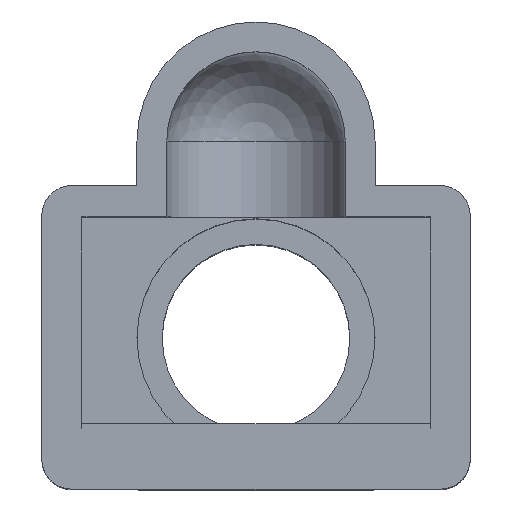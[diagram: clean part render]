
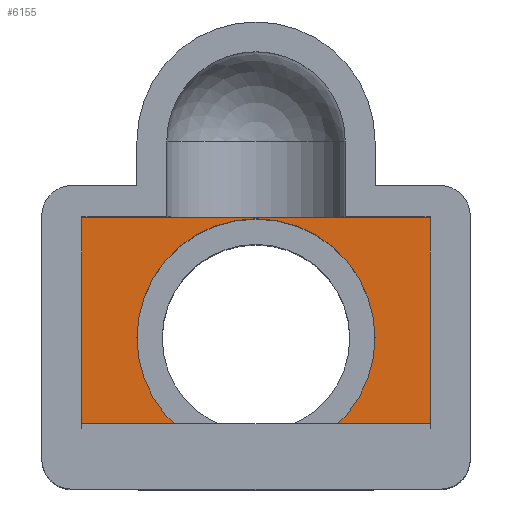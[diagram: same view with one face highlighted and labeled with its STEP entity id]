
A CAD part, top view. The second image highlights one B-rep face of the part: STEP entity #6155.
In plain terms, the highlighted planar face has unit normal (0, 0, 1).
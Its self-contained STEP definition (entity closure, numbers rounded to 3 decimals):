
#141 = VERTEX_POINT('',#142);
#142 = CARTESIAN_POINT('',(4.,0.,-8.5));
#149 = CYLINDRICAL_SURFACE('',#150,4.);
#150 = AXIS2_PLACEMENT_3D('',#151,#152,#153);
#151 = CARTESIAN_POINT('',(0.,0.,-14.5));
#152 = DIRECTION('',(-0.,-0.,1.));
#153 = DIRECTION('',(1.,0.,0.));
#161 = CYLINDRICAL_SURFACE('',#162,4.);
#162 = AXIS2_PLACEMENT_3D('',#163,#164,#165);
#163 = CARTESIAN_POINT('',(0.,0.,-14.5));
#164 = DIRECTION('',(-0.,-0.,1.));
#165 = DIRECTION('',(1.,0.,0.));
#173 = EDGE_CURVE('',#174,#141,#176,.T.);
#174 = VERTEX_POINT('',#175);
#175 = CARTESIAN_POINT('',(-4.,0.,-8.5));
#176 = SURFACE_CURVE('',#177,(#182,#189),.PCURVE_S1.);
#177 = CIRCLE('',#178,4.);
#178 = AXIS2_PLACEMENT_3D('',#179,#180,#181);
#179 = CARTESIAN_POINT('',(0.,0.,-8.5));
#180 = DIRECTION('',(0.,0.,1.));
#181 = DIRECTION('',(1.,0.,-0.));
#182 = PCURVE('',#149,#183);
#183 = DEFINITIONAL_REPRESENTATION('',(#184),#188);
#184 = LINE('',#185,#186);
#185 = CARTESIAN_POINT('',(0.,6.));
#186 = VECTOR('',#187,1.);
#187 = DIRECTION('',(1.,0.));
#188 = ( GEOMETRIC_REPRESENTATION_CONTEXT(2) 
PARAMETRIC_REPRESENTATION_CONTEXT() REPRESENTATION_CONTEXT('2D SPACE',''
  ) );
#189 = PCURVE('',#190,#195);
#190 = PLANE('',#191);
#191 = AXIS2_PLACEMENT_3D('',#192,#193,#194);
#192 = CARTESIAN_POINT('',(0.,0.,-8.5));
#193 = DIRECTION('',(-0.,0.,1.));
#194 = DIRECTION('',(1.,0.,0.));
#195 = DEFINITIONAL_REPRESENTATION('',(#196),#200);
#196 = CIRCLE('',#197,4.);
#197 = AXIS2_PLACEMENT_2D('',#198,#199);
#198 = CARTESIAN_POINT('',(0.,0.));
#199 = DIRECTION('',(1.,0.));
#200 = ( GEOMETRIC_REPRESENTATION_CONTEXT(2) 
PARAMETRIC_REPRESENTATION_CONTEXT() REPRESENTATION_CONTEXT('2D SPACE',''
  ) );
#4884 = PLANE('',#4885);
#4885 = AXIS2_PLACEMENT_3D('',#4886,#4887,#4888);
#4886 = CARTESIAN_POINT('',(5.85,4.05,-8.5));
#4887 = DIRECTION('',(1.,0.,0.));
#4888 = DIRECTION('',(0.,0.,-1.));
#4932 = VERTEX_POINT('',#4933);
#4933 = CARTESIAN_POINT('',(5.85,4.05,-8.5));
#4947 = PLANE('',#4948);
#4948 = AXIS2_PLACEMENT_3D('',#4949,#4950,#4951);
#4949 = CARTESIAN_POINT('',(-5.85,4.05,-8.5));
#4950 = DIRECTION('',(-0.,1.,0.));
#4951 = DIRECTION('',(0.,0.,1.));
#4959 = EDGE_CURVE('',#4960,#4932,#4962,.T.);
#4960 = VERTEX_POINT('',#4961);
#4961 = CARTESIAN_POINT('',(5.85,-4.05,-8.5));
#4962 = SURFACE_CURVE('',#4963,(#4967,#4974),.PCURVE_S1.);
#4963 = LINE('',#4964,#4965);
#4964 = CARTESIAN_POINT('',(5.85,4.05,-8.5));
#4965 = VECTOR('',#4966,1.);
#4966 = DIRECTION('',(-0.,1.,-0.));
#4967 = PCURVE('',#4884,#4968);
#4968 = DEFINITIONAL_REPRESENTATION('',(#4969),#4973);
#4969 = LINE('',#4970,#4971);
#4970 = CARTESIAN_POINT('',(0.,0.));
#4971 = VECTOR('',#4972,1.);
#4972 = DIRECTION('',(0.,1.));
#4973 = ( GEOMETRIC_REPRESENTATION_CONTEXT(2) 
PARAMETRIC_REPRESENTATION_CONTEXT() REPRESENTATION_CONTEXT('2D SPACE',''
  ) );
#4974 = PCURVE('',#190,#4975);
#4975 = DEFINITIONAL_REPRESENTATION('',(#4976),#4980);
#4976 = LINE('',#4977,#4978);
#4977 = CARTESIAN_POINT('',(5.85,4.05));
#4978 = VECTOR('',#4979,1.);
#4979 = DIRECTION('',(0.,1.));
#4980 = ( GEOMETRIC_REPRESENTATION_CONTEXT(2) 
PARAMETRIC_REPRESENTATION_CONTEXT() REPRESENTATION_CONTEXT('2D SPACE',''
  ) );
#4996 = PLANE('',#4997);
#4997 = AXIS2_PLACEMENT_3D('',#4998,#4999,#5000);
#4998 = CARTESIAN_POINT('',(-5.85,-4.05,-8.5));
#4999 = DIRECTION('',(0.,-1.,0.));
#5000 = DIRECTION('',(0.,-0.,-1.));
#5035 = EDGE_CURVE('',#5036,#4960,#5038,.T.);
#5036 = VERTEX_POINT('',#5037);
#5037 = CARTESIAN_POINT('',(-5.85,-4.05,-8.5));
#5038 = SURFACE_CURVE('',#5039,(#5043,#5050),.PCURVE_S1.);
#5039 = LINE('',#5040,#5041);
#5040 = CARTESIAN_POINT('',(-5.85,-4.05,-8.5));
#5041 = VECTOR('',#5042,1.);
#5042 = DIRECTION('',(1.,0.,0.));
#5043 = PCURVE('',#4996,#5044);
#5044 = DEFINITIONAL_REPRESENTATION('',(#5045),#5049);
#5045 = LINE('',#5046,#5047);
#5046 = CARTESIAN_POINT('',(0.,0.));
#5047 = VECTOR('',#5048,1.);
#5048 = DIRECTION('',(0.,1.));
#5049 = ( GEOMETRIC_REPRESENTATION_CONTEXT(2) 
PARAMETRIC_REPRESENTATION_CONTEXT() REPRESENTATION_CONTEXT('2D SPACE',''
  ) );
#5050 = PCURVE('',#190,#5051);
#5051 = DEFINITIONAL_REPRESENTATION('',(#5052),#5056);
#5052 = LINE('',#5053,#5054);
#5053 = CARTESIAN_POINT('',(-5.85,-4.05));
#5054 = VECTOR('',#5055,1.);
#5055 = DIRECTION('',(1.,0.));
#5056 = ( GEOMETRIC_REPRESENTATION_CONTEXT(2) 
PARAMETRIC_REPRESENTATION_CONTEXT() REPRESENTATION_CONTEXT('2D SPACE',''
  ) );
#5072 = PLANE('',#5073);
#5073 = AXIS2_PLACEMENT_3D('',#5074,#5075,#5076);
#5074 = CARTESIAN_POINT('',(-5.85,4.05,-8.5));
#5075 = DIRECTION('',(-1.,0.,-0.));
#5076 = DIRECTION('',(0.,0.,1.));
#5111 = EDGE_CURVE('',#5112,#5036,#5114,.T.);
#5112 = VERTEX_POINT('',#5113);
#5113 = CARTESIAN_POINT('',(-5.85,4.05,-8.5));
#5114 = SURFACE_CURVE('',#5115,(#5119,#5126),.PCURVE_S1.);
#5115 = LINE('',#5116,#5117);
#5116 = CARTESIAN_POINT('',(-5.85,4.05,-8.5));
#5117 = VECTOR('',#5118,1.);
#5118 = DIRECTION('',(0.,-1.,0.));
#5119 = PCURVE('',#5072,#5120);
#5120 = DEFINITIONAL_REPRESENTATION('',(#5121),#5125);
#5121 = LINE('',#5122,#5123);
#5122 = CARTESIAN_POINT('',(0.,0.));
#5123 = VECTOR('',#5124,1.);
#5124 = DIRECTION('',(0.,-1.));
#5125 = ( GEOMETRIC_REPRESENTATION_CONTEXT(2) 
PARAMETRIC_REPRESENTATION_CONTEXT() REPRESENTATION_CONTEXT('2D SPACE',''
  ) );
#5126 = PCURVE('',#190,#5127);
#5127 = DEFINITIONAL_REPRESENTATION('',(#5128),#5132);
#5128 = LINE('',#5129,#5130);
#5129 = CARTESIAN_POINT('',(-5.85,4.05));
#5130 = VECTOR('',#5131,1.);
#5131 = DIRECTION('',(0.,-1.));
#5132 = ( GEOMETRIC_REPRESENTATION_CONTEXT(2) 
PARAMETRIC_REPRESENTATION_CONTEXT() REPRESENTATION_CONTEXT('2D SPACE',''
  ) );
#6134 = EDGE_CURVE('',#4932,#5112,#6135,.T.);
#6135 = SURFACE_CURVE('',#6136,(#6140,#6147),.PCURVE_S1.);
#6136 = LINE('',#6137,#6138);
#6137 = CARTESIAN_POINT('',(-5.85,4.05,-8.5));
#6138 = VECTOR('',#6139,1.);
#6139 = DIRECTION('',(-1.,-0.,-0.));
#6140 = PCURVE('',#4947,#6141);
#6141 = DEFINITIONAL_REPRESENTATION('',(#6142),#6146);
#6142 = LINE('',#6143,#6144);
#6143 = CARTESIAN_POINT('',(0.,0.));
#6144 = VECTOR('',#6145,1.);
#6145 = DIRECTION('',(-0.,-1.));
#6146 = ( GEOMETRIC_REPRESENTATION_CONTEXT(2) 
PARAMETRIC_REPRESENTATION_CONTEXT() REPRESENTATION_CONTEXT('2D SPACE',''
  ) );
#6147 = PCURVE('',#190,#6148);
#6148 = DEFINITIONAL_REPRESENTATION('',(#6149),#6153);
#6149 = LINE('',#6150,#6151);
#6150 = CARTESIAN_POINT('',(-5.85,4.05));
#6151 = VECTOR('',#6152,1.);
#6152 = DIRECTION('',(-1.,0.));
#6153 = ( GEOMETRIC_REPRESENTATION_CONTEXT(2) 
PARAMETRIC_REPRESENTATION_CONTEXT() REPRESENTATION_CONTEXT('2D SPACE',''
  ) );
#6155 = ADVANCED_FACE('',(#6156,#6181),#190,.T.);
#6156 = FACE_BOUND('',#6157,.T.);
#6157 = EDGE_LOOP('',(#6158,#6180));
#6158 = ORIENTED_EDGE('',*,*,#6159,.F.);
#6159 = EDGE_CURVE('',#141,#174,#6160,.T.);
#6160 = SURFACE_CURVE('',#6161,(#6166,#6173),.PCURVE_S1.);
#6161 = CIRCLE('',#6162,4.);
#6162 = AXIS2_PLACEMENT_3D('',#6163,#6164,#6165);
#6163 = CARTESIAN_POINT('',(0.,0.,-8.5));
#6164 = DIRECTION('',(0.,0.,1.));
#6165 = DIRECTION('',(1.,0.,-0.));
#6166 = PCURVE('',#190,#6167);
#6167 = DEFINITIONAL_REPRESENTATION('',(#6168),#6172);
#6168 = CIRCLE('',#6169,4.);
#6169 = AXIS2_PLACEMENT_2D('',#6170,#6171);
#6170 = CARTESIAN_POINT('',(0.,0.));
#6171 = DIRECTION('',(1.,0.));
#6172 = ( GEOMETRIC_REPRESENTATION_CONTEXT(2) 
PARAMETRIC_REPRESENTATION_CONTEXT() REPRESENTATION_CONTEXT('2D SPACE',''
  ) );
#6173 = PCURVE('',#161,#6174);
#6174 = DEFINITIONAL_REPRESENTATION('',(#6175),#6179);
#6175 = LINE('',#6176,#6177);
#6176 = CARTESIAN_POINT('',(0.,6.));
#6177 = VECTOR('',#6178,1.);
#6178 = DIRECTION('',(1.,0.));
#6179 = ( GEOMETRIC_REPRESENTATION_CONTEXT(2) 
PARAMETRIC_REPRESENTATION_CONTEXT() REPRESENTATION_CONTEXT('2D SPACE',''
  ) );
#6180 = ORIENTED_EDGE('',*,*,#173,.F.);
#6181 = FACE_BOUND('',#6182,.T.);
#6182 = EDGE_LOOP('',(#6183,#6184,#6185,#6186));
#6183 = ORIENTED_EDGE('',*,*,#4959,.T.);
#6184 = ORIENTED_EDGE('',*,*,#6134,.T.);
#6185 = ORIENTED_EDGE('',*,*,#5111,.T.);
#6186 = ORIENTED_EDGE('',*,*,#5035,.T.);
